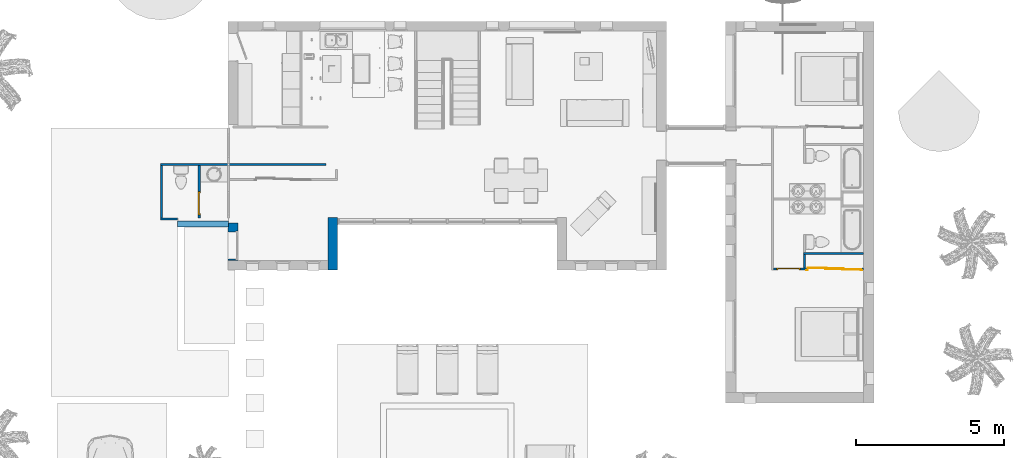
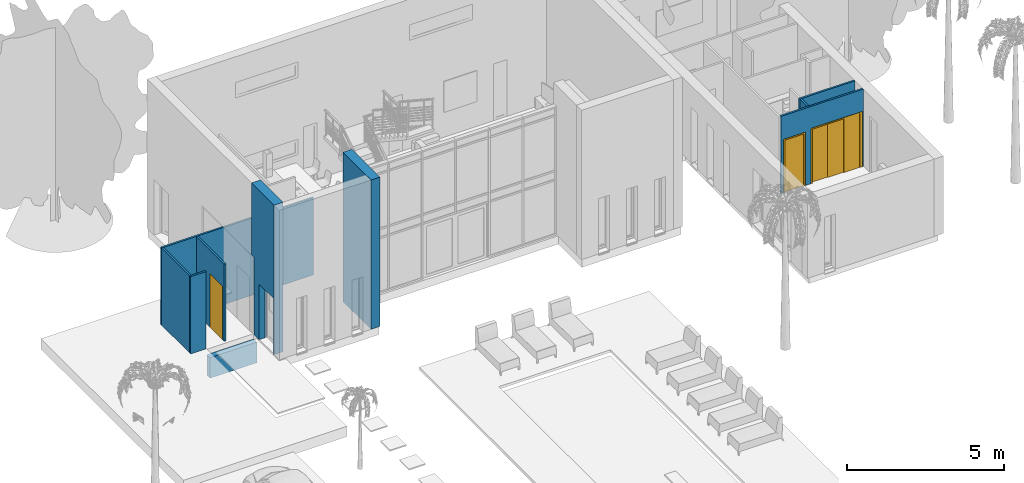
# One storey, part 9 of 40: 10 walls, 3 doors, 5 openings.
"""IFC2X3 building model written with IfcOpenShell, lengths in metres."""

from ifc_helpers import new_model, entity, si_unit, converted_unit, derived_unit, direction, frame, frame_2d, origin, origin_2d_with_axis, place, context, subcontext, project, spatial, polyline, circle_curve, parameter, trimmed, segment, composite_curve, rectangle, outline, extrude, clip, halfspace, bounded_halfspace, faceted_brep, source, transform, mapped, material, material_list, layer, layer_set, layer_usage, type_object, type_shapes, element, fill, save


model = new_model("IFC2X3")

# Units and contexts
model_context = context("Model", 3, precision=1e-05, world=origin(), true_north=direction((6.12303176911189e-17, 1.0)))
body_context = subcontext(model_context, "Body", "Model", "MODEL_VIEW")
ifc_project = project(units=[si_unit("LENGTHUNIT", "METRE"), si_unit("AREAUNIT", "SQUARE_METRE"), si_unit("VOLUMEUNIT", "CUBIC_METRE"), converted_unit("PLANEANGLEUNIT", "DEGREE", entity("IfcRatioMeasure", 0.0174532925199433), si_unit("PLANEANGLEUNIT", "RADIAN"), dimensions=[0, 0, 0, 0, 0, 0, 0]), si_unit("MASSUNIT", "GRAM", prefix="KILO"), derived_unit("MASSDENSITYUNIT", [(si_unit("MASSUNIT", "GRAM", prefix="KILO"), 1), (si_unit("LENGTHUNIT", "METRE"), -3)]), si_unit("TIMEUNIT", "SECOND"), si_unit("FREQUENCYUNIT", "HERTZ"), si_unit("THERMODYNAMICTEMPERATUREUNIT", "DEGREE_CELSIUS"), derived_unit("THERMALTRANSMITTANCEUNIT", [(si_unit("MASSUNIT", "GRAM", prefix="KILO"), 1), (si_unit("THERMODYNAMICTEMPERATUREUNIT", "KELVIN"), -1), (si_unit("TIMEUNIT", "SECOND"), -3)]), derived_unit("VOLUMETRICFLOWRATEUNIT", [(si_unit("LENGTHUNIT", "METRE"), 3), (si_unit("TIMEUNIT", "SECOND"), -1)]), si_unit("ELECTRICCURRENTUNIT", "AMPERE"), si_unit("ELECTRICVOLTAGEUNIT", "VOLT"), si_unit("POWERUNIT", "WATT"), si_unit("FORCEUNIT", "NEWTON", prefix="KILO"), si_unit("ILLUMINANCEUNIT", "LUX"), si_unit("LUMINOUSFLUXUNIT", "LUMEN"), si_unit("LUMINOUSINTENSITYUNIT", "CANDELA"), derived_unit("USERDEFINED", [(si_unit("MASSUNIT", "GRAM", prefix="KILO"), -1), (si_unit("LENGTHUNIT", "METRE"), -2), (si_unit("TIMEUNIT", "SECOND"), 3), (si_unit("LUMINOUSFLUXUNIT", "LUMEN"), 1)]), derived_unit("LINEARVELOCITYUNIT", [(si_unit("LENGTHUNIT", "METRE"), 1), (si_unit("TIMEUNIT", "SECOND"), -1)]), si_unit("PRESSUREUNIT", "PASCAL"), derived_unit("USERDEFINED", [(si_unit("LENGTHUNIT", "METRE"), -2), (si_unit("MASSUNIT", "GRAM", prefix="KILO"), 1), (si_unit("TIMEUNIT", "SECOND"), -2)])], contexts=[model_context])

# Site, building, storey
site_placement = place(None, origin())
site = spatial("IfcSite", under=ifc_project, at=site_placement, Name="Surface", CompositionType="ELEMENT")
building_placement = place(site_placement, origin())
building = spatial("IfcBuilding", under=site, at=building_placement, CompositionType="ELEMENT")
storey_placement = place(building_placement, origin())
storey = spatial("IfcBuildingStorey", under=building, at=storey_placement, Name="RDC", CompositionType="ELEMENT", Elevation=-1.0941605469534e-13)

# Wall
ifc_material_1 = material(Name="Maçonnerie - Enduit")
ifc_layer_1 = layer(ifc_material_1, 0.02)
ifc_material_2 = material(Name="Blocs béton manufacturés")
ifc_layer_2 = layer(ifc_material_2, 0.2)
ifc_material_3 = material(Name="vide")
ifc_layer_3 = layer(ifc_material_3, 0.01)
ifc_material_4 = material(Name="Maçonnerie - Isolant")
ifc_layer_4 = layer(ifc_material_4, 0.09)
ifc_material_5 = material(Name="Plâtre")
ifc_layer_5 = layer(ifc_material_5, 0.01)
ifc_layer_set_1 = layer_set([ifc_layer_1, ifc_layer_2, ifc_layer_3, ifc_layer_4, ifc_layer_5], Name="Mur de base:M7 Ext. Crépis 2 + BBMC 20 + Isolant 11")
ifc_layer_usage_1 = layer_usage(ifc_layer_set_1, "AXIS2", "NEGATIVE", 0.165)
wall_type_1 = type_object("IfcWallType", Name="Mur de base:M7 Ext. Crépis 2 + BBMC 20 + Isolant 11", PredefinedType="STANDARD", material=ifc_layer_set_1)
wall_1_placement = place(storey_placement, frame((-1.4674888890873, 1.25701067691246, 0.0), z_axis=(0.0, 0.0, 1.0), x_axis=(0.0, -1.0, 0.0)))
element("IfcWallStandardCase", 1, at=wall_1_placement, inside=storey, type_object=wall_type_1, material=ifc_layer_usage_1, Name="Mur de base:M7 Ext. Crépis 2 + BBMC 20 + Isolant 11", ObjectType="Mur de base:M7 Ext. Crépis 2 + BBMC 20 + Isolant 11", context=body_context, shape_type="SweptSolid", body=[
    extrude(rectangle(XDim=1.78000000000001, YDim=0.33, at=frame_2d((0.890000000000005, -5.55111512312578e-17), x_axis=(-1.0, 0.0))), origin(), (0.0, 0.0, 1.0), 5.80000000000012),
])

# Wall, openings
ifc_layer_usage_2 = layer_usage(ifc_layer_set_1, "AXIS2", "NEGATIVE", 0.165)
wall_2_placement = place(storey_placement, frame((-4.8374888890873, -0.192989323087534, 0.0), z_axis=(0.0, 0.0, 1.0), x_axis=(0.0, 1.0, 0.0)))
wall_2 = element("IfcWallStandardCase", 2, at=wall_2_placement, inside=storey, type_object=wall_type_1, material=ifc_layer_usage_2, Name="Mur de base:M7 Ext. Crépis 2 + BBMC 20 + Isolant 11", ObjectType="Mur de base:M7 Ext. Crépis 2 + BBMC 20 + Isolant 11", context=body_context, shape_type="Clipping", body=[
    clip(extrude(rectangle(XDim=1.43, YDim=0.329999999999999, at=frame_2d((0.714999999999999, -2.63677968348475e-16), x_axis=(-1.0, 0.0))), origin(), (0.0, 0.0, 1.0), 5.80000000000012), halfspace(frame((1.265, 0.0, 0.0), z_axis=(0.998490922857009, 0.0, -0.0549170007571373), x_axis=(0.0, 1.0, 0.0)), False)),
])
opening_1_placement = place(wall_2_placement, origin())
element("IfcOpeningElement", 3, at=opening_1_placement, cuts=wall_2, Name="Mur de base:M7 Ext. Crépis 2 + BBMC 20 + Isolant 11", ObjectType="Opening", context=body_context, shape_type="SweptSolid", body=[
    extrude(outline(polyline([(-2.00000228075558, -0.0549170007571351), (1.00453179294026, -0.0549170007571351), (0.995470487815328, 0.10983400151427), (-2.00000228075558, -0.0549170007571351)])), frame((1.32, 0.165, 2.0), z_axis=(0.0, -1.0, 0.0), x_axis=(0.0549170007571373, 0.0, 0.998490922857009)), (0.0, 0.0, 1.0), 0.33),
])
opening_2_placement = place(wall_2_placement, frame((0.0100000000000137, 0.465000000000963, 0.0), z_axis=(0.0, 0.0, 1.0), x_axis=(0.0, -1.0, 0.0)))
element("IfcOpeningElement", 4, at=opening_2_placement, cuts=wall_2, Name="Mur de base:M7 Ext. Crépis 2 + BBMC 20 + Isolant 11", ObjectType="Opening", context=body_context, shape_type="Brep", body=[
    faceted_brep([(0.930000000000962, 0.0299999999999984, 2.15999999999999), (0.930000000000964, 0.949999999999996, 2.15999999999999), (0.630000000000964, 0.949999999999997, 2.15999999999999), (0.630000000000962, 0.029999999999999, 2.15999999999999), (0.0, 0.0300000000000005, 0.0), (0.0, 0.949999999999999, 0.0), (0.530000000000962, 0.949999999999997, 0.0), (0.530000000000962, 0.964999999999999, 0.0), (0.573000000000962, 0.964999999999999, 0.0), (0.573000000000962, 0.979999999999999, 0.0), (0.630000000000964, 0.979999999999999, 0.0), (0.630000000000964, 0.949999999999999, 0.0), (0.930000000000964, 0.949999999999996, 0.0), (0.930000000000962, 0.0299999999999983, 0.0), (0.630000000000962, 0.029999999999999, 0.0), (0.630000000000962, 0.0, 0.0), (0.57300000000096, 0.0, 0.0), (0.57300000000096, 0.0150000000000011, 0.0), (0.53000000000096, 0.0150000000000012, 0.0), (0.53000000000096, 0.0300000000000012, 0.0), (0.0, 0.0300000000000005, 2.15999999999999), (0.0, 0.949999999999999, 2.15999999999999), (0.530000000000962, 0.949999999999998, 2.15999999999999), (0.57300000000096, 0.0, 2.19), (0.573000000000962, 0.98, 2.19), (0.573000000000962, 0.964999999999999, 2.17499999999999), (0.57300000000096, 0.0150000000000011, 2.17499999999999), (0.630000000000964, 0.979999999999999, 2.19), (0.630000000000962, 0.0, 2.19), (0.530000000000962, 0.964999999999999, 2.17499999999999), (0.53000000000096, 0.0299999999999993, 2.15999999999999), (0.53000000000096, 0.0150000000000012, 2.17499999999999)], [[[0, 1, 2, 3]], [[4, 5, 6, 7, 8, 9, 10, 11, 12, 13, 14, 15, 16, 17, 18, 19]], [[13, 0, 3, 14]], [[20, 21, 5, 4]], [[5, 21, 22, 6]], [[1, 0, 13, 12]], [[16, 23, 24, 9, 8, 25, 26, 17]], [[11, 10, 27, 28, 15, 14, 3, 2]], [[10, 9, 24, 27]], [[24, 23, 28, 27]], [[23, 16, 15, 28]], [[8, 7, 29, 25]], [[7, 6, 22, 30, 19, 18, 31, 29]], [[25, 29, 31, 26]], [[31, 18, 17, 26]], [[1, 12, 11, 2]], [[20, 4, 19, 30]], [[21, 20, 30, 22]]]),
])

# Wall
ifc_material_6 = material(Name="Mur par défaut")
ifc_layer_6 = layer(ifc_material_6, 0.07)
ifc_layer_set_2 = layer_set([ifc_layer_6], Name="Mur de base:Générique - Int. 70 mm")
ifc_layer_usage_3 = layer_usage(ifc_layer_set_2, "AXIS2", "NEGATIVE", 0.035)
wall_type_2 = type_object("IfcWallType", Name="Mur de base:Générique - Int. 70 mm", PredefinedType="STANDARD", material=ifc_layer_set_2)
wall_3_placement = place(storey_placement, frame((-7.2824888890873, 3.04201067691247, 0.0)))
element("IfcWallStandardCase", 5, at=wall_3_placement, inside=storey, type_object=wall_type_2, material=ifc_layer_usage_3, Name="Mur de base:Générique - Int. 70 mm", ObjectType="Mur de base:Générique - Int. 70 mm", context=body_context, shape_type="Clipping", body=[
    clip(extrude(rectangle(XDim=5.58000000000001, YDim=0.0700000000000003, at=frame_2d((2.79, 1.6306400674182e-16), x_axis=(-1.0, 0.0))), origin(), (0.0, 0.0, 1.0), 3.0), bounded_halfspace(frame((2.61000000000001, -0.0349999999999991, 3.0), z_axis=(0.0, 0.0, -1.0), x_axis=(0.0, -1.0, 0.0)), True, frame((2.61000000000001, -0.0349999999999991, 3.0)), polyline([(0.0, 0.0), (2.97, 0.0), (2.97, 0.0699999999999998), (0.0, 0.0699999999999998), (0.0, 0.0)]))),
])

# Wall, opening, door
ifc_layer_usage_4 = layer_usage(ifc_layer_set_2, "AXIS2", "NEGATIVE", 0.035)
wall_4_placement = place(storey_placement, frame((-5.9774888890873, 3.00701067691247, 0.0), z_axis=(0.0, 0.0, 1.0), x_axis=(0.0, -1.0, 0.0)))
wall_4 = element("IfcWallStandardCase", 6, at=wall_4_placement, inside=storey, type_object=wall_type_2, material=ifc_layer_usage_4, Name="Mur de base:Générique - Int. 70 mm", ObjectType="Mur de base:Générique - Int. 70 mm", context=body_context, shape_type="SweptSolid", body=[
    extrude(rectangle(XDim=1.77, YDim=0.0699999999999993, at=frame_2d((0.885, -2.98372437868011e-16), x_axis=(-1.0, 0.0))), origin(), (0.0, 0.0, 1.0), 3.0),
])
opening_3_placement = place(wall_4_placement, frame((1.67, 0.0349999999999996, 0.0)))
opening_3 = element("IfcOpeningElement", 7, at=opening_3_placement, cuts=wall_4, Name="Int. Simple:PP (0.73m x 2.04m):1", ObjectType="Opening", context=body_context, shape_type="SweptSolid", body=[
    extrude(rectangle(XDim=2.075, YDim=0.799999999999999, at=frame_2d((1.0375, 0.4), x_axis=(1.0, 0.0))), frame((0.0, 0.0, 0.0), z_axis=(0.0, -1.0, 0.0), x_axis=(0.0, 0.0, 1.0)), (0.0, 0.0, 1.0), 0.07),
])
ifc_material_7 = material(Name="Bois - Panneau de porte")
ifc_material_8 = material(Name="Bois - Cadre de porte")
ifc_material_list_1 = material_list([ifc_material_7, ifc_material_8])
ifc_material_list_2 = material_list([ifc_material_7, ifc_material_8])
door_style_1 = type_object("IfcDoorStyle", Name="PP (0.73m x 2.04m)", ConstructionType="NOTDEFINED", OperationType="SINGLE_SWING_LEFT", ParameterTakesPrecedence=False, Sizeable=False, material=ifc_material_list_2)
shared_shape_1 = source(origin(), body_context, "Body", "Brep", [
    faceted_brep([(0.0349999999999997, 0.0400000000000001, 2.04), (0.765, 0.0400000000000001, 2.04), (0.765, 0.0400000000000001, 0.0), (0.0349999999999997, 0.0400000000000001, 0.0), (0.0349999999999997, 0.0, 2.04), (0.0349999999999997, 0.0, 0.0), (0.765, 0.0, 0.0), (0.765, 0.0, 2.04)], [[[0, 1, 2, 3]], [[4, 5, 6, 7]], [[1, 0, 4, 7]], [[2, 1, 7, 6]], [[3, 2, 6, 5]], [[0, 3, 5, 4]]]),
    faceted_brep([(0.0, 0.0, 0.0), (0.0, 0.0699999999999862, 0.0), (0.0500000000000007, 0.0699999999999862, 0.0), (0.0500000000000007, 0.04, 0.0), (0.0349999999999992, 0.04, 0.0), (0.0349999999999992, 0.0, 0.0), (0.0, 0.0, 2.07500000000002), (0.0, 0.0699999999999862, 2.07500000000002), (0.800000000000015, 0.0699999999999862, 2.07500000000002), (0.800000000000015, 0.0699999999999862, 0.0), (0.749999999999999, 0.0699999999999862, 0.0), (0.749999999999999, 0.0699999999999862, 2.025), (0.0500000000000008, 0.0699999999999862, 2.025), (0.0500000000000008, 0.04, 2.025), (0.749999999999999, 0.04, 2.025), (0.749999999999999, 0.04, 0.0), (0.765000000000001, 0.04, 0.0), (0.765000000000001, 0.04, 2.04), (0.0349999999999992, 0.04, 2.04), (0.0349999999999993, 0.0, 2.04), (0.765000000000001, 0.0, 2.04), (0.765000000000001, 0.0, 0.0), (0.800000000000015, 0.0, 0.0), (0.800000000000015, 0.0, 2.07500000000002)], [[[0, 1, 2, 3, 4, 5]], [[1, 0, 6, 7]], [[2, 1, 7, 8, 9, 10, 11, 12]], [[3, 2, 12, 13]], [[4, 3, 13, 14, 15, 16, 17, 18]], [[5, 4, 18, 19]], [[0, 5, 19, 20, 21, 22, 23, 6]], [[8, 23, 22, 9]], [[22, 21, 16, 15, 10, 9]], [[14, 11, 10, 15]], [[20, 17, 16, 21]], [[7, 6, 23, 8]], [[13, 12, 11, 14]], [[19, 18, 17, 20]]]),
])
type_shapes(door_style_1, [shared_shape_1])
door_1_placement = place(opening_3_placement, frame((-0.8, -0.0699999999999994, 0.0)))
door_1 = element("IfcDoor", 8, at=door_1_placement, inside=storey, type_object=door_style_1, material=ifc_material_list_1, Name="Int. Simple:PP (0.73m x 2.04m)", ObjectType="PP (0.73m x 2.04m)", OverallHeight=2.075, OverallWidth=0.799999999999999, context=body_context, shape_type="MappedRepresentation", body=[
    mapped(shared_shape_1, transform((0.0, 0.0, 0.0), scale=1.0)),
])
fill(opening_3, door_1)

# Walls
ifc_layer_usage_5 = layer_usage(ifc_layer_set_2, "AXIS2", "POSITIVE", -0.035)
wall_5_placement = place(storey_placement, frame((-6.7124888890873, 1.20201067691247, 0.0), z_axis=(0.0, 0.0, 1.0), x_axis=(-1.0, 0.0, 0.0)))
element("IfcWallStandardCase", 9, at=wall_5_placement, inside=storey, type_object=wall_type_2, material=ifc_layer_usage_5, Name="Mur de base:Générique - Int. 70 mm", ObjectType="Mur de base:Générique - Int. 70 mm", context=body_context, shape_type="SweptSolid", body=[
    extrude(rectangle(XDim=0.570000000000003, YDim=0.0700000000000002, at=frame_2d((0.285000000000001, 3.12250225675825e-17), x_axis=(-1.0, 0.0))), origin(), (0.0, 0.0, 1.0), 3.0),
])
ifc_layer_usage_6 = layer_usage(ifc_layer_set_2, "AXIS2", "NEGATIVE", 0.035)
wall_6_placement = place(storey_placement, frame((-7.2474888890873, 3.00701067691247, 0.0), z_axis=(0.0, 0.0, 1.0), x_axis=(0.0, -1.0, 0.0)))
element("IfcWallStandardCase", 10, at=wall_6_placement, inside=storey, type_object=wall_type_2, material=ifc_layer_usage_6, Name="Mur de base:Générique - Int. 70 mm", ObjectType="Mur de base:Générique - Int. 70 mm", context=body_context, shape_type="SweptSolid", body=[
    extrude(rectangle(XDim=1.77, YDim=0.0699999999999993, at=frame_2d((0.885, -4.05925293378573e-16), x_axis=(-1.0, 0.0))), origin(), (0.0, 0.0, 1.0), 3.0),
])

# Wall, openings, doors
ifc_layer_usage_7 = layer_usage(ifc_layer_set_2, "AXIS2", "NEGATIVE", 0.035)
wall_7_placement = place(storey_placement, frame((16.4475111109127, -0.487989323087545, 0.0), z_axis=(0.0, 0.0, 1.0), x_axis=(-1.0, 0.0, 0.0)))
wall_7 = element("IfcWallStandardCase", 11, at=wall_7_placement, inside=storey, type_object=wall_type_2, material=ifc_layer_usage_7, Name="Mur de base:Générique - Int. 70 mm", ObjectType="Mur de base:Générique - Int. 70 mm", context=body_context, shape_type="SweptSolid", body=[
    extrude(rectangle(XDim=3.03, YDim=0.0700000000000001, at=frame_2d((1.515, 0.0), x_axis=(-1.0, 0.0))), origin(), (0.0, 0.0, 1.0), 2.99999999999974),
])
opening_4_placement = place(wall_7_placement, frame((0.0799999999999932, -0.0349999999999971, 0.0)))
opening_4 = element("IfcOpeningElement", 12, at=opening_4_placement, cuts=wall_7, Name="Placard coulissante - 3 panneaux:Placard coulissante - 3 panneaux:1", ObjectType="Opening", context=body_context, shape_type="SweptSolid", body=[
    extrude(rectangle(XDim=2.09999999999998, YDim=1.8, at=frame_2d((1.04999999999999, 0.9), x_axis=(1.0, 0.0))), frame((0.0, 0.0, 0.0), z_axis=(0.0, 1.0, 0.0), x_axis=(0.0, 0.0, 1.0)), (0.0, 0.0, 1.0), 0.07),
])
opening_5_placement = place(wall_7_placement, frame((2.92999999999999, 0.0349999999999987, 0.0)))
opening_5 = element("IfcOpeningElement", 13, at=opening_5_placement, cuts=wall_7, Name="Int. Simple:PP (0.73m x 2.04m):1", ObjectType="Opening", context=body_context, shape_type="SweptSolid", body=[
    extrude(rectangle(XDim=2.075, YDim=0.799999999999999, at=frame_2d((1.0375, 0.4), x_axis=(1.0, 0.0))), frame((0.0, 0.0, 0.0), z_axis=(0.0, -1.0, 0.0), x_axis=(0.0, 0.0, 1.0)), (0.0, 0.0, 1.0), 0.07),
])
ifc_material_9 = material(Name="Placard - Profil")
ifc_material_10 = material(Name="Placard - Encadrement")
ifc_material_11 = material(Name="Placard - Porte")
ifc_material_list_3 = material_list([ifc_material_9, ifc_material_10, ifc_material_11])
ifc_material_list_4 = material_list([ifc_material_9, ifc_material_10, ifc_material_11])
door_style_2 = type_object("IfcDoorStyle", Name="Placard coulissante - 3 panneaux", ConstructionType="NOTDEFINED", OperationType="SLIDING_TO_RIGHT", ParameterTakesPrecedence=False, Sizeable=False, material=ifc_material_list_4)
shared_shape_2 = source(origin(), body_context, "Body", "SweptSolid", [
    extrude(outline(composite_curve([segment(polyline([(-0.0250000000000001, -0.00100000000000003), (0.0249999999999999, -0.00100000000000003)]), True, "CONTINUOUS"), segment(polyline([(0.0249999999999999, -0.00100000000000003), (0.0249999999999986, 0.00100000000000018)]), True, "CONTINUOUS"), segment(trimmed(circle_curve(frame_2d((0.0, -0.212860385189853), x_axis=(-1.0, 0.0)), 0.215316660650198), [parameter(263.332459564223)], [parameter(276.667540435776)], True, "PARAMETER"), True, "CONTINUOUS"), segment(polyline([(-0.0250000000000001, 0.00100000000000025), (-0.0250000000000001, -0.00100000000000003)]), True, "CONTINUOUS")], self_intersect=False)), frame((1.775, 0.00899999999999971, 0.0), z_axis=(0.0, 0.0, 1.0), x_axis=(-1.0, 0.0, 0.0)), (0.0, 0.0, 1.0), 2.1),
    extrude(outline(composite_curve([segment(polyline([(-0.0250000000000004, -0.00100000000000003), (0.0249999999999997, -0.00100000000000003)]), True, "CONTINUOUS"), segment(polyline([(0.0249999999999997, -0.00100000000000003), (0.0249999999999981, 0.00100000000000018)]), True, "CONTINUOUS"), segment(trimmed(circle_curve(frame_2d((0.0, -0.212860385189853), x_axis=(-1.0, 0.0)), 0.215316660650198), [parameter(263.332459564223)], [parameter(276.667540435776)], True, "PARAMETER"), True, "CONTINUOUS"), segment(polyline([(-0.0250000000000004, 0.00100000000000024), (-0.0250000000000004, -0.00100000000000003)]), True, "CONTINUOUS")], self_intersect=False)), frame((1.19166666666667, 0.00900000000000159, 0.0), z_axis=(0.0, 0.0, 1.0), x_axis=(-1.0, 0.0, 0.0)), (0.0, 0.0, 1.0), 2.1),
    extrude(outline(composite_curve([segment(polyline([(-0.0250000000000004, -0.00100000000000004), (0.0249999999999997, -0.00100000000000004)]), True, "CONTINUOUS"), segment(polyline([(0.0249999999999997, -0.00100000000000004), (0.0249999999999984, 0.00100000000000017)]), True, "CONTINUOUS"), segment(trimmed(circle_curve(frame_2d((0.0, -0.212860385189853), x_axis=(-1.0, 0.0)), 0.215316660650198), [parameter(263.332459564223)], [parameter(276.667540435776)], True, "PARAMETER"), True, "CONTINUOUS"), segment(polyline([(-0.0250000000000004, 0.00100000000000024), (-0.0250000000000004, -0.00100000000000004)]), True, "CONTINUOUS")], self_intersect=False)), frame((1.19166666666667, 0.0340000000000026, 0.0), z_axis=(0.0, 0.0, 1.0), x_axis=(-1.0, 0.0, 0.0)), (0.0, 0.0, 1.0), 2.1),
    extrude(outline(composite_curve([segment(polyline([(-0.0250000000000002, -0.00100000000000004), (0.0249999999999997, -0.00100000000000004)]), True, "CONTINUOUS"), segment(polyline([(0.0249999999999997, -0.00100000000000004), (0.0249999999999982, 0.00100000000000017)]), True, "CONTINUOUS"), segment(trimmed(circle_curve(frame_2d((0.0, -0.212860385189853), x_axis=(-1.0, 0.0)), 0.215316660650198), [parameter(263.332459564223)], [parameter(276.667540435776)], True, "PARAMETER"), True, "CONTINUOUS"), segment(polyline([(-0.0250000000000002, 0.00100000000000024), (-0.0250000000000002, -0.00100000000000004)]), True, "CONTINUOUS")], self_intersect=False)), frame((0.608333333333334, 0.0340000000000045, 0.0), z_axis=(0.0, 0.0, 1.0), x_axis=(-1.0, 0.0, 0.0)), (0.0, 0.0, 1.0), 2.1),
    extrude(outline(composite_curve([segment(polyline([(-0.0250000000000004, -0.00100000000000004), (0.0249999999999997, -0.00100000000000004)]), True, "CONTINUOUS"), segment(polyline([(0.0249999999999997, -0.00100000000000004), (0.0249999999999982, 0.00100000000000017)]), True, "CONTINUOUS"), segment(trimmed(circle_curve(frame_2d((0.0, -0.212860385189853), x_axis=(-1.0, 0.0)), 0.215316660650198), [parameter(263.332459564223)], [parameter(276.667540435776)], True, "PARAMETER"), True, "CONTINUOUS"), segment(polyline([(-0.0250000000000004, 0.00100000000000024), (-0.0250000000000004, -0.00100000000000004)]), True, "CONTINUOUS")], self_intersect=False)), frame((0.608333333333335, 0.0590000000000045, 0.0), z_axis=(0.0, 0.0, 1.0), x_axis=(-1.0, 0.0, 0.0)), (0.0, 0.0, 1.0), 2.1),
    extrude(outline(composite_curve([segment(polyline([(-0.0250000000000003, -0.00100000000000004), (0.0249999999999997, -0.00100000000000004)]), True, "CONTINUOUS"), segment(polyline([(0.0249999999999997, -0.00100000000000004), (0.0249999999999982, 0.00100000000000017)]), True, "CONTINUOUS"), segment(trimmed(circle_curve(frame_2d((0.0, -0.212860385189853), x_axis=(-1.0, 0.0)), 0.215316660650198), [parameter(263.332459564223)], [parameter(276.667540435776)], True, "PARAMETER"), True, "CONTINUOUS"), segment(polyline([(-0.0250000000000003, 0.00100000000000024), (-0.0250000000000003, -0.00100000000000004)]), True, "CONTINUOUS")], self_intersect=False)), frame((0.0250000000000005, 0.0590000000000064, 0.0), z_axis=(0.0, 0.0, 1.0), x_axis=(-1.0, 0.0, 0.0)), (0.0, 0.0, 1.0), 2.1),
    extrude(outline(polyline([(-1.06149999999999, -0.948), (1.08649999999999, -0.948), (1.08649999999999, 0.948), (-1.06149999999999, 0.948), (-1.06149999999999, 0.898), (1.03649999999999, 0.898), (1.03649999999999, -0.898), (-1.06149999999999, -0.898), (-1.06149999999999, -0.948)])), frame((0.9, -0.003, 1.06149999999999), z_axis=(0.0, 1.0, 0.0), x_axis=(0.0, 0.0, 1.0)), (0.0, 0.0, 1.0), 0.003),
    extrude(rectangle(XDim=0.020000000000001, YDim=0.633333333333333, at=frame_2d((0.0, 8.32667268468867e-17), x_axis=(1.0, 0.0))), frame((1.48333333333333, 0.0200000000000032, 0.0), z_axis=(0.0, 0.0, 1.0), x_axis=(0.0, 1.0, 0.0)), (0.0, 0.0, 1.0), 2.1),
    extrude(rectangle(XDim=0.633333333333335, YDim=0.02, at=origin_2d_with_axis()), frame((0.316666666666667, 0.0700000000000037, 0.0), z_axis=(0.0, 0.0, 1.0), x_axis=(-1.0, 0.0, 0.0)), (0.0, 0.0, 1.0), 2.1),
    extrude(rectangle(XDim=0.02, YDim=0.633333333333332, at=origin_2d_with_axis()), frame((0.9, 0.0450000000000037, 0.0), z_axis=(0.0, 0.0, 1.0), x_axis=(0.0, 1.0, 0.0)), (0.0, 0.0, 1.0), 2.1),
])
type_shapes(door_style_2, [shared_shape_2])
door_2_placement = place(opening_4_placement, frame((1.8, 0.069999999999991, 0.0), z_axis=(0.0, 0.0, 1.0), x_axis=(-1.0, 0.0, 0.0)))
door_2 = element("IfcDoor", 14, at=door_2_placement, inside=storey, type_object=door_style_2, material=ifc_material_list_3, Name="Placard coulissante - 3 panneaux:Placard coulissante - 3 panneaux", ObjectType="Placard coulissante - 3 panneaux", OverallHeight=2.09999999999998, OverallWidth=1.8, context=body_context, shape_type="MappedRepresentation", body=[
    mapped(shared_shape_2, transform((0.0, 0.0, 0.0), scale=1.0)),
])
fill(opening_4, door_2)
ifc_material_list_5 = material_list([ifc_material_7, ifc_material_8])
door_3_placement = place(opening_5_placement, frame((-0.799999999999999, -0.0700000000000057, 0.0)))
door_3 = element("IfcDoor", 15, at=door_3_placement, inside=storey, type_object=door_style_1, material=ifc_material_list_5, Name="Int. Simple:PP (0.73m x 2.04m)", ObjectType="PP (0.73m x 2.04m)", OverallHeight=2.075, OverallWidth=0.8, context=body_context, shape_type="MappedRepresentation", body=[
    mapped(shared_shape_1, transform((0.0, 0.0, 0.0), scale=1.0)),
])
fill(opening_5, door_3)

# Walls
ifc_layer_usage_8 = layer_usage(ifc_layer_set_2, "AXIS2", "NEGATIVE", 0.035)
wall_8_placement = place(storey_placement, frame((14.4525111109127, -0.452989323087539, 0.0), z_axis=(0.0, 0.0, 1.0), x_axis=(0.0, 1.0, 0.0)))
element("IfcWallStandardCase", 16, at=wall_8_placement, inside=storey, type_object=wall_type_2, material=ifc_layer_usage_8, Name="Mur de base:Générique - Int. 70 mm", ObjectType="Mur de base:Générique - Int. 70 mm", context=body_context, shape_type="SweptSolid", body=[
    extrude(rectangle(XDim=0.46, YDim=0.0700000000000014, at=frame_2d((0.23, -1.42247325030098e-16), x_axis=(-1.0, 0.0))), origin(), (0.0, 0.0, 1.0), 2.99999999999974),
])
ifc_layer_usage_9 = layer_usage(ifc_layer_set_2, "AXIS2", "POSITIVE", -0.035)
wall_9_placement = place(storey_placement, frame((14.4175111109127, 0.042010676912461, 0.0)))
element("IfcWallStandardCase", 17, at=wall_9_placement, inside=storey, type_object=wall_type_2, material=ifc_layer_usage_9, Name="Mur de base:Générique - Int. 70 mm", ObjectType="Mur de base:Générique - Int. 70 mm", context=body_context, shape_type="SweptSolid", body=[
    extrude(rectangle(XDim=2.03, YDim=0.07, at=frame_2d((1.015, -3.46944695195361e-18), x_axis=(-1.0, 0.0))), origin(), (0.0, 0.0, 1.0), 2.99999999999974),
])
ifc_layer_7 = layer(ifc_material_2, 0.2)
ifc_layer_set_3 = layer_set([ifc_layer_7], Name="Mur de base:Mur soubassement BB 20")
ifc_layer_usage_10 = layer_usage(ifc_layer_set_3, "AXIS2", "POSITIVE", -0.1)
wall_type_3 = type_object("IfcWallType", Name="Mur de base:Mur soubassement BB 20", PredefinedType="STANDARD", material=ifc_layer_set_3)
wall_10_placement = place(storey_placement, frame((-6.7124888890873, 1.02701067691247, -1.0)))
element("IfcWallStandardCase", 18, at=wall_10_placement, inside=storey, type_object=wall_type_3, material=ifc_layer_usage_10, Name="Mur de base:Mur soubassement BB 20", ObjectType="Mur de base:Mur soubassement BB 20", context=body_context, shape_type="SweptSolid", body=[
    extrude(rectangle(XDim=1.73, YDim=0.2, at=frame_2d((0.865, -6.93889390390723e-18), x_axis=(-1.0, 0.0))), origin(), (0.0, 0.0, 1.0), 0.800000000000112),
])

save(model, "model.ifc")
